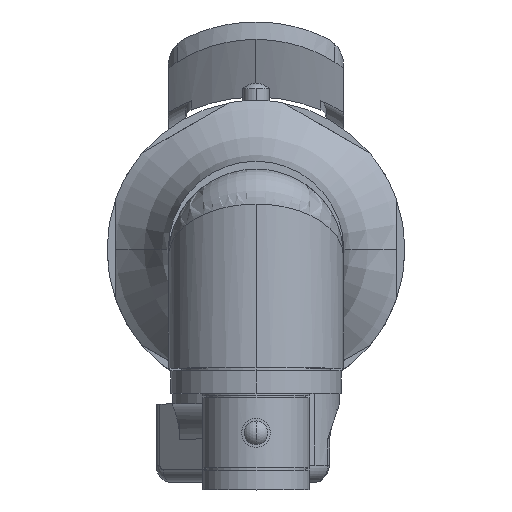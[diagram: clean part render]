
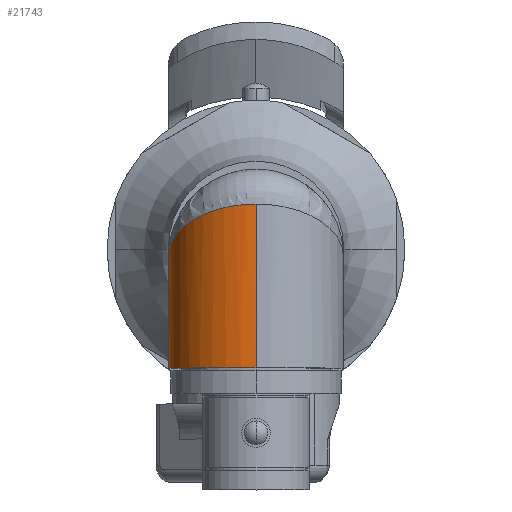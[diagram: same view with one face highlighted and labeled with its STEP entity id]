
A CAD part, top view. The second image highlights one B-rep face of the part: STEP entity #21743.
In plain terms, the highlighted cylindrical face has radius 10 mm (diameter 20 mm), a partial arc.
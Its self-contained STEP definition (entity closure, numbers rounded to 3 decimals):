
#2971 = CARTESIAN_POINT ( 'NONE',  ( 0., -9., -10. ) ) ;
#2972 = DIRECTION ( 'NONE',  ( 0., -1., 0. ) ) ;
#2973 = VECTOR ( 'NONE', #2972, 1000. ) ;
#2974 = CARTESIAN_POINT ( 'NONE',  ( 0., 9., -10. ) ) ;
#2975 = LINE ( 'NONE', #2974, #2973 ) ;
#2976 = CARTESIAN_POINT ( 'NONE',  ( 0., -13.7, -10. ) ) ;
#3016 = CARTESIAN_POINT ( 'NONE',  ( -8.81, 1.838, -4.731 ) ) ;
#3017 = CARTESIAN_POINT ( 'NONE',  ( -8.87, 1.55, -4.619 ) ) ;
#3018 = CARTESIAN_POINT ( 'NONE',  ( -8.919, 1.247, -4.524 ) ) ;
#3019 = CARTESIAN_POINT ( 'NONE',  ( -8.983, 0.633, -4.394 ) ) ;
#3020 = CARTESIAN_POINT ( 'NONE',  ( -9., 0.32, -4.359 ) ) ;
#3021 = CARTESIAN_POINT ( 'NONE',  ( -9., 0., -4.359 ) ) ;
#3023 = CARTESIAN_POINT ( 'NONE',  ( -8.81, 1.838, -4.731 ) ) ;
#3024 = B_SPLINE_CURVE_WITH_KNOTS ( 'NONE', 3,
 ( #3021, #3020, #3019, #3018, #3017, #3016 ),
 .UNSPECIFIED., .F., .F.,
 ( 4, 2, 4 ),
 ( 0.046, 0.047, 0.048 ),
 .UNSPECIFIED. ) ;
#3026 = CARTESIAN_POINT ( 'NONE',  ( -9., 0., -4.359 ) ) ;
#3230 = CARTESIAN_POINT ( 'NONE',  ( 0., 5., 10. ) ) ;
#3278 = CARTESIAN_POINT ( 'NONE',  ( 0., -13.7, 10. ) ) ;
#3279 = DIRECTION ( 'NONE',  ( 0., -1., 0. ) ) ;
#3280 = VECTOR ( 'NONE', #3279, 1000. ) ;
#3281 = CARTESIAN_POINT ( 'NONE',  ( 0., 9., 10. ) ) ;
#3282 = LINE ( 'NONE', #3281, #3280 ) ;
#3477 = DIRECTION ( 'NONE',  ( 0., 0., -1. ) ) ;
#3478 = AXIS2_PLACEMENT_3D ( 'NONE', #3485, #3500, #3477 ) ;
#3485 = CARTESIAN_POINT ( 'NONE',  ( 0., 9., 0. ) ) ;
#3486 = CYLINDRICAL_SURFACE ( 'NONE', #3478, 10. ) ;
#3487 = FACE_OUTER_BOUND ( 'NONE', #21744, .T. ) ;
#3500 = DIRECTION ( 'NONE',  ( 0., -1., 0. ) ) ;
#5267 =( BOUNDED_CURVE ( )  B_SPLINE_CURVE ( 3, ( #5308, #5307, #5306, #5305 ),
 .UNSPECIFIED., .F., .T. ) 
 B_SPLINE_CURVE_WITH_KNOTS ( ( 4, 4 ),
 ( 3.142, 4.712 ),
 .UNSPECIFIED. ) 
 CURVE ( )  GEOMETRIC_REPRESENTATION_ITEM ( )  RATIONAL_B_SPLINE_CURVE ( ( 1., 0.805, 0.805, 1. ) ) 
 REPRESENTATION_ITEM ( '' )  );
#5268 = CARTESIAN_POINT ( 'NONE',  ( -10., -1., 0. ) ) ;
#5291 = B_SPLINE_CURVE_WITH_KNOTS ( 'NONE', 3,
 ( #5299, #5298, #5297, #5296, #5295, #5294, #5293, #5292, #5338, #5337, #5336, #5335, #5334, #5333, #5332, #5331, #5330, #5329, #5328, #5327, #5326, #5325, #5324, #5323, #5322, #5321, #5320, #5319 ),
 .UNSPECIFIED., .F., .F.,
 ( 4, 2, 2, 2, 2, 2, 2, 2, 2, 2, 2, 2, 2, 4 ),
 ( 0.031, 0.032, 0.033, 0.034, 0.035, 0.036, 0.036, 0.038, 0.04, 0.042, 0.043, 0.044, 0.045, 0.046 ),
 .UNSPECIFIED. ) ;
#5292 = CARTESIAN_POINT ( 'NONE',  ( -3.11, -8.451, -9.509 ) ) ;
#5293 = CARTESIAN_POINT ( 'NONE',  ( -2.517, -8.647, -9.683 ) ) ;
#5294 = CARTESIAN_POINT ( 'NONE',  ( -2.213, -8.729, -9.757 ) ) ;
#5295 = CARTESIAN_POINT ( 'NONE',  ( -1.597, -8.863, -9.877 ) ) ;
#5296 = CARTESIAN_POINT ( 'NONE',  ( -1.284, -8.914, -9.922 ) ) ;
#5297 = CARTESIAN_POINT ( 'NONE',  ( -0.647, -8.982, -9.984 ) ) ;
#5298 = CARTESIAN_POINT ( 'NONE',  ( -0.321, -9., -10. ) ) ;
#5299 = CARTESIAN_POINT ( 'NONE',  ( 0., -9., -10. ) ) ;
#5300 = CARTESIAN_POINT ( 'NONE',  ( -8.81, 1.838, -4.731 ) ) ;
#5301 = CARTESIAN_POINT ( 'NONE',  ( -9.595, 0.961, -3.269 ) ) ;
#5302 = CARTESIAN_POINT ( 'NONE',  ( -10., -0.004, -1.659 ) ) ;
#5303 = CARTESIAN_POINT ( 'NONE',  ( -10., -1., 0. ) ) ;
#5304 =( BOUNDED_CURVE ( )  B_SPLINE_CURVE ( 3, ( #5303, #5302, #5301, #5300 ),
 .UNSPECIFIED., .F., .T. ) 
 B_SPLINE_CURVE_WITH_KNOTS ( ( 4, 4 ),
 ( 1.571, 2.064 ),
 .UNSPECIFIED. ) 
 CURVE ( )  GEOMETRIC_REPRESENTATION_ITEM ( )  RATIONAL_B_SPLINE_CURVE ( ( 1., 0.98, 0.98, 1. ) ) 
 REPRESENTATION_ITEM ( '' )  );
#5305 = CARTESIAN_POINT ( 'NONE',  ( -10., -1., 0. ) ) ;
#5306 = CARTESIAN_POINT ( 'NONE',  ( -10., 2.515, 5.858 ) ) ;
#5307 = CARTESIAN_POINT ( 'NONE',  ( -5.858, 5., 10. ) ) ;
#5308 = CARTESIAN_POINT ( 'NONE',  ( 0., 5., 10. ) ) ;
#5319 = CARTESIAN_POINT ( 'NONE',  ( -9., 0., -4.359 ) ) ;
#5320 = CARTESIAN_POINT ( 'NONE',  ( -9., -0.326, -4.359 ) ) ;
#5321 = CARTESIAN_POINT ( 'NONE',  ( -8.982, -0.644, -4.396 ) ) ;
#5322 = CARTESIAN_POINT ( 'NONE',  ( -8.916, -1.27, -4.53 ) ) ;
#5323 = CARTESIAN_POINT ( 'NONE',  ( -8.866, -1.578, -4.628 ) ) ;
#5324 = CARTESIAN_POINT ( 'NONE',  ( -8.741, -2.166, -4.86 ) ) ;
#5325 = CARTESIAN_POINT ( 'NONE',  ( -8.665, -2.449, -4.994 ) ) ;
#5326 = CARTESIAN_POINT ( 'NONE',  ( -8.491, -2.999, -5.286 ) ) ;
#5327 = CARTESIAN_POINT ( 'NONE',  ( -8.392, -3.264, -5.442 ) ) ;
#5328 = CARTESIAN_POINT ( 'NONE',  ( -8.066, -4.032, -5.924 ) ) ;
#5329 = CARTESIAN_POINT ( 'NONE',  ( -7.808, -4.509, -6.264 ) ) ;
#5330 = CARTESIAN_POINT ( 'NONE',  ( -7.209, -5.415, -6.945 ) ) ;
#5331 = CARTESIAN_POINT ( 'NONE',  ( -6.865, -5.846, -7.289 ) ) ;
#5332 = CARTESIAN_POINT ( 'NONE',  ( -6.1, -6.641, -7.94 ) ) ;
#5333 = CARTESIAN_POINT ( 'NONE',  ( -5.678, -7.007, -8.25 ) ) ;
#5334 = CARTESIAN_POINT ( 'NONE',  ( -4.975, -7.506, -8.679 ) ) ;
#5335 = CARTESIAN_POINT ( 'NONE',  ( -4.727, -7.664, -8.817 ) ) ;
#5336 = CARTESIAN_POINT ( 'NONE',  ( -4.213, -7.959, -9.074 ) ) ;
#5337 = CARTESIAN_POINT ( 'NONE',  ( -3.947, -8.094, -9.193 ) ) ;
#5338 = CARTESIAN_POINT ( 'NONE',  ( -3.395, -8.34, -9.411 ) ) ;
#5339 = DIRECTION ( 'NONE',  ( 0., 0., 1. ) ) ;
#5340 = DIRECTION ( 'NONE',  ( 0., 1., 0. ) ) ;
#5341 = CARTESIAN_POINT ( 'NONE',  ( 0., -13.7, 0. ) ) ;
#5342 = AXIS2_PLACEMENT_3D ( 'NONE', #5341, #5340, #5339 ) ;
#5343 = CIRCLE ( 'NONE', #5342, 10. ) ;
#21567 = VERTEX_POINT ( 'NONE', #2976 ) ;
#21569 = EDGE_CURVE ( 'NONE', #21570, #21567, #2975, .T. ) ;
#21570 = VERTEX_POINT ( 'NONE', #2971 ) ;
#21573 = VERTEX_POINT ( 'NONE', #3026 ) ;
#21575 = EDGE_CURVE ( 'NONE', #21573, #21576, #3024, .T. ) ;
#21576 = VERTEX_POINT ( 'NONE', #3023 ) ;
#21650 = VERTEX_POINT ( 'NONE', #3230 ) ;
#21652 = EDGE_CURVE ( 'NONE', #21650, #21653, #3282, .T. ) ;
#21653 = VERTEX_POINT ( 'NONE', #3278 ) ;
#21743 = ADVANCED_FACE ( 'NONE', ( #3487 ), #3486, .T. ) ;
#21744 = EDGE_LOOP ( 'NONE', ( #21745, #21800, #21803, #21805, #21806, #21808, #21809 ) ) ;
#21745 = ORIENTED_EDGE ( 'NONE', *, *, #21652, .F. ) ;
#21800 = ORIENTED_EDGE ( 'NONE', *, *, #21801, .T. ) ;
#21801 = EDGE_CURVE ( 'NONE', #21650, #21802, #5267, .T. ) ;
#21802 = VERTEX_POINT ( 'NONE', #5268 ) ;
#21803 = ORIENTED_EDGE ( 'NONE', *, *, #21804, .T. ) ;
#21804 = EDGE_CURVE ( 'NONE', #21802, #21576, #5304, .T. ) ;
#21805 = ORIENTED_EDGE ( 'NONE', *, *, #21575, .F. ) ;
#21806 = ORIENTED_EDGE ( 'NONE', *, *, #21807, .F. ) ;
#21807 = EDGE_CURVE ( 'NONE', #21570, #21573, #5291, .T. ) ;
#21808 = ORIENTED_EDGE ( 'NONE', *, *, #21569, .T. ) ;
#21809 = ORIENTED_EDGE ( 'NONE', *, *, #21810, .T. ) ;
#21810 = EDGE_CURVE ( 'NONE', #21567, #21653, #5343, .T. ) ;
